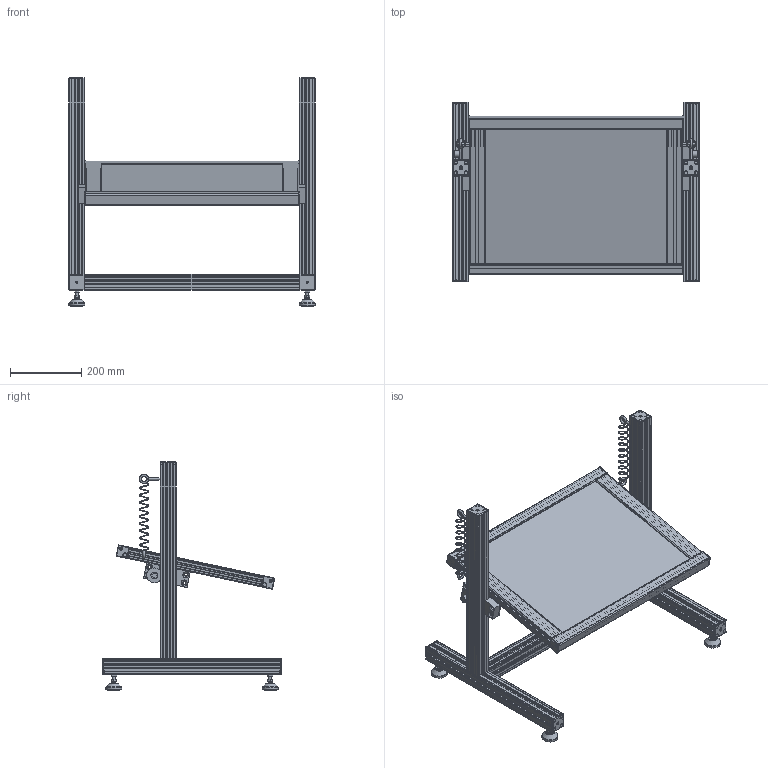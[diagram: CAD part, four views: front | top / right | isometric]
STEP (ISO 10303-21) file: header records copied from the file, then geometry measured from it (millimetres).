
FILE_DESCRIPTION((''),'2;1');
FILE_NAME('C:\AAAAINTERNET\UPLOAD\32.0165 FOOT REST COMFORT.stp','2015-01-15T16:37:50',('Admin'),(''),'Autodesk Inventor 2012','Autodesk Inventor 2012','');
FILE_SCHEMA(('AUTOMOTIVE_DESIGN { 1 0 10303 214 1 1 1 1 }'));
Length unit declared in the file: millimetre
Products named in the file (33): 32.0165 FOOT REST COMFORT; Part77; Part79; Part81; Part83; Part85; Part87; Part89; Part91; Part93; Part95; Part97; Part99; Part101; Part103; Part105; Part107; Part109; Part111; Part113; Part115; Part117; Part119; 21.1871 LEVELING FOOT M8 45mm BASE; ANTI-SKID PAD 45mm; PAD 45mm PLASTIC; THREADED STUD 8mm; 21.1526 M8 HEX NUT; 22.1004/1 END CAP 45X45 GRAY; 22.1004_1 END CAP 45X45 GRAY; END CAP DOWEL GRAY; 22.1002_1 END CAP 32X32 Z GRAY; 22.1002_1 END CAP 32X32 GRAY
Assembly tree (45 placements, depth 3):
  32.0165 FOOT REST COMFORT
    Part77
    Part79
    Part81
    Part83
    Part85
    Part87  x2
    Part89
    Part91
    Part93
    Part95
    Part97
    Part99
    Part101
    Part103
    Part105
    Part107
    Part109
    Part111
    Part113
    Part115
    Part117
    Part119
    21.1871 LEVELING FOOT M8 45mm BASE  x4
      ANTI-SKID PAD 45mm
      PAD 45mm PLASTIC
      THREADED STUD 8mm
      21.1526 M8 HEX NUT
    22.1004/1 END CAP 45X45 GRAY  x6
      22.1004_1 END CAP 45X45 GRAY
      END CAP DOWEL GRAY
    22.1002_1 END CAP 32X32 Z GRAY  x4
      22.1002_1 END CAP 32X32 GRAY
      END CAP DOWEL GRAY
Bounding box: 693 x 506 x 642.45 mm (x, y, z)
Volume: 4518718.6 mm3; surface area: 3114479 mm2
Topology: 59 solids, 59 shells, 3634 faces, 10602 edges, 7232 vertices
Faces by surface type: plane 1522, cylinder 1158, bspline 736, cone 162, sphere 32, torus 24
Full cylindrical faces by diameter (mm): 5 x20, 5.5 x6, 6 x4, 6.647 x4, 7 x4, 7.65 x8, 8 x4, 8.5 x20, 8.65 x4, 9 x4, 10 x6, 10.5 x4, 11.5 x2, 11.75 x8, 12 x4, 12.75 x4, 14 x4, 15 x8, 19 x2, 37 x8, 42 x2, 45 x4
Entity records: 94109 total; most frequent: CARTESIAN_POINT 27267, DIRECTION 13968, ORIENTED_EDGE 13632, EDGE_CURVE 6816, AXIS2_PLACEMENT_3D 5431, VERTEX_POINT 5286, EDGE_LOOP 3394, VECTOR 3106
